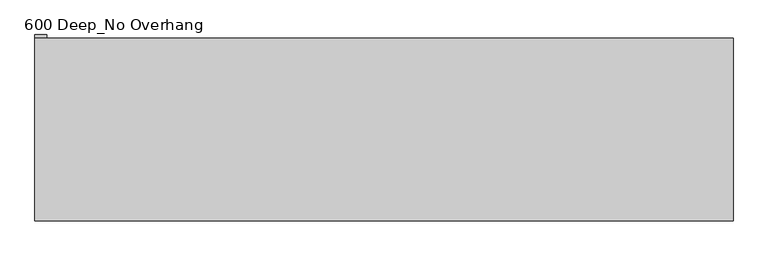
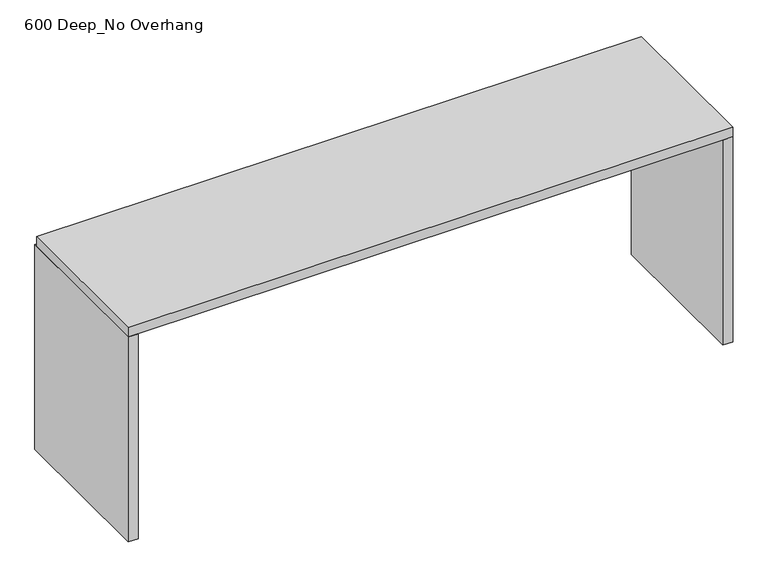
"""IFC4 building model written with IfcOpenShell, lengths in millimetres: furniture geometry, Benchtop_Optional Hole_I Shaped_CAS : 600 Deep_No Overhang."""

from ifc_helpers import new_model, si_unit, frame, origin, origin_with_axes, place, context, project, spatial, polyline, outline, extrude, source, transform, mapped, element, save


def furniture_600_deep_no_overhang_7ea55c78(model_context):
    return source(origin(), model_context, "Body", "SweptSolid", [
        extrude(outline(polyline([(1204.7003264, -628.039124), (1204.7003264, 0.0), (1244.7003264, 0.0), (1244.7003264, -628.039124), (1204.7003264, -628.039124)])), origin_with_axes(), (0.0, 0.0, 1.0), 860.0),
        extrude(outline(polyline([(-1115.2996736, 11.960876), (-1115.2996736, -628.039124), (-1155.2996736, -628.039124), (-1155.2996736, 11.960876), (-1115.2996736, 11.960876)])), origin_with_axes(), (0.0, 0.0, 1.0), 860.0),
        extrude(outline(polyline([(1244.7003264, 0.0), (1244.7003264, -628.039124), (-1155.2996736, -628.039124), (-1155.2996736, 0.0), (1244.7003264, 0.0)])), frame((0.0, 0.0, 860.0), z_axis=(0.0, 0.0, 1.0), x_axis=(1.0, 0.0, 0.0)), (0.0, 0.0, 1.0), 40.0),
    ])


if __name__ == "__main__":
    model = new_model("IFC4")
    model_context = context("Model", 3, world=origin())
    ifc_project = project(units=[si_unit("LENGTHUNIT", "METRE", prefix="MILLI")], contexts=[model_context])
    site = spatial("IfcSite", under=ifc_project)
    building = spatial("IfcBuilding", under=site)
    placement = place(None, origin())
    furniture_600_deep_no_overhang_shape = furniture_600_deep_no_overhang_7ea55c78(model_context)
    element("IfcFurniture", 1, ObjectType="Benchtop_Optional Hole_I Shaped_CAS : 600 Deep_No Overhang", at=placement, inside=building, context=model_context, shape_type="MappedRepresentation", body=[
        mapped(furniture_600_deep_no_overhang_shape, transform((0.0, 0.0, 0.0), x_axis=(1.0, 0.0, 0.0), y_axis=(0.0, 1.0, 0.0), z_axis=(0.0, 0.0, 1.0))),
    ])
    save(model, "model.ifc")
